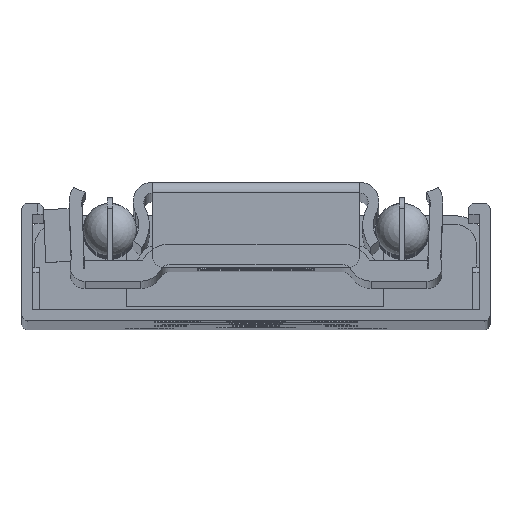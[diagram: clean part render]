
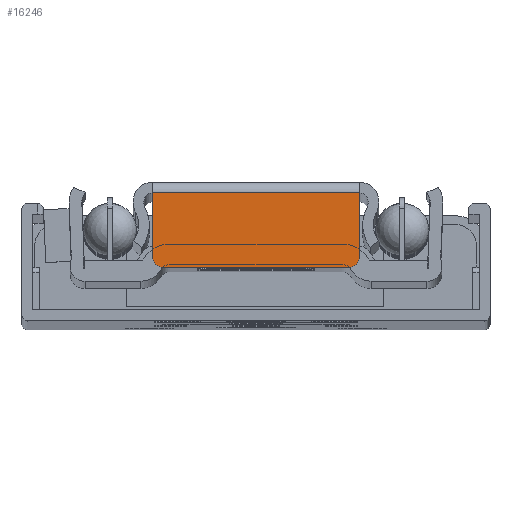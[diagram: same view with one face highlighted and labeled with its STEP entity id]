
A CAD part, top view. The second image highlights one B-rep face of the part: STEP entity #16246.
In plain terms, the highlighted planar face has unit normal (0, 0, 1).
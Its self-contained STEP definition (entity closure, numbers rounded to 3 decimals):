
#754=PLANE('',#17771);
#1546=FACE_OUTER_BOUND('',#2509,.T.);
#2509=EDGE_LOOP('',(#14815,#14816,#14817,#14818,#14819,#14820));
#4111=LINE('',#27278,#5733);
#4112=LINE('',#27281,#5734);
#4113=LINE('',#27285,#5735);
#4114=LINE('',#27288,#5736);
#5733=VECTOR('',#22270,10.);
#5734=VECTOR('',#22273,10.);
#5735=VECTOR('',#22276,10.);
#5736=VECTOR('',#22279,10.);
#6501=CIRCLE('',#17772,1.);
#6502=CIRCLE('',#17773,1.);
#8002=VERTEX_POINT('',#27271);
#8005=VERTEX_POINT('',#27276);
#8006=VERTEX_POINT('',#27280);
#8007=VERTEX_POINT('',#27282);
#8008=VERTEX_POINT('',#27284);
#8009=VERTEX_POINT('',#27286);
#10321=EDGE_CURVE('',#8005,#8002,#4111,.T.);
#10322=EDGE_CURVE('',#8005,#8006,#4112,.T.);
#10323=EDGE_CURVE('',#8007,#8006,#6501,.T.);
#10324=EDGE_CURVE('',#8007,#8008,#4113,.T.);
#10325=EDGE_CURVE('',#8009,#8008,#6502,.T.);
#10326=EDGE_CURVE('',#8002,#8009,#4114,.T.);
#14815=ORIENTED_EDGE('',*,*,#10321,.F.);
#14816=ORIENTED_EDGE('',*,*,#10322,.T.);
#14817=ORIENTED_EDGE('',*,*,#10323,.F.);
#14818=ORIENTED_EDGE('',*,*,#10324,.T.);
#14819=ORIENTED_EDGE('',*,*,#10325,.F.);
#14820=ORIENTED_EDGE('',*,*,#10326,.F.);
#16246=ADVANCED_FACE('',(#1546),#754,.T.);
#17771=AXIS2_PLACEMENT_3D('',#27279,#22271,#22272);
#17772=AXIS2_PLACEMENT_3D('',#27283,#22274,#22275);
#17773=AXIS2_PLACEMENT_3D('',#27287,#22277,#22278);
#22270=DIRECTION('',(-1.,0.,0.));
#22271=DIRECTION('center_axis',(0.,0.,1.));
#22272=DIRECTION('ref_axis',(1.,0.,0.));
#22273=DIRECTION('',(0.,1.,0.));
#22274=DIRECTION('center_axis',(0.,0.,-1.));
#22275=DIRECTION('ref_axis',(0.707,0.707,0.));
#22276=DIRECTION('',(-1.,0.,0.));
#22277=DIRECTION('center_axis',(0.,0.,-1.));
#22278=DIRECTION('ref_axis',(-0.707,0.707,0.));
#22279=DIRECTION('',(0.,1.,0.));
#27271=CARTESIAN_POINT('',(4.892,-4.95,499.));
#27276=CARTESIAN_POINT('',(24.354,-4.95,499.));
#27278=CARTESIAN_POINT('',(19.501,-4.95,499.));
#27279=CARTESIAN_POINT('Origin',(24.354,-5.95,499.));
#27280=CARTESIAN_POINT('',(24.354,1.05,499.));
#27281=CARTESIAN_POINT('',(24.354,-5.95,499.));
#27282=CARTESIAN_POINT('',(23.354,2.05,499.));
#27283=CARTESIAN_POINT('Origin',(23.354,1.05,499.));
#27284=CARTESIAN_POINT('',(5.892,2.05,499.));
#27285=CARTESIAN_POINT('',(24.354,2.05,499.));
#27286=CARTESIAN_POINT('',(4.892,1.05,499.));
#27287=CARTESIAN_POINT('Origin',(5.892,1.05,499.));
#27288=CARTESIAN_POINT('',(4.892,-5.95,499.));
